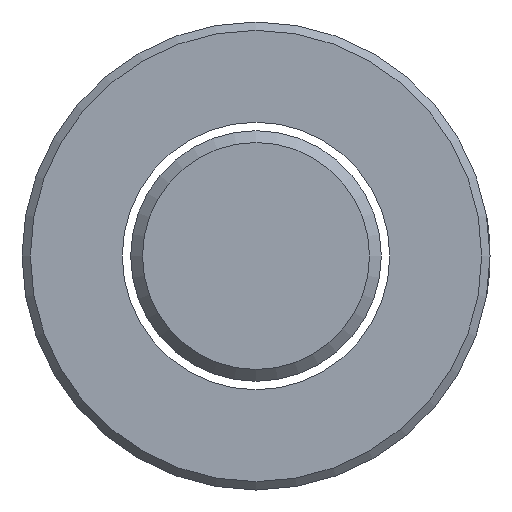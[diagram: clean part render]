
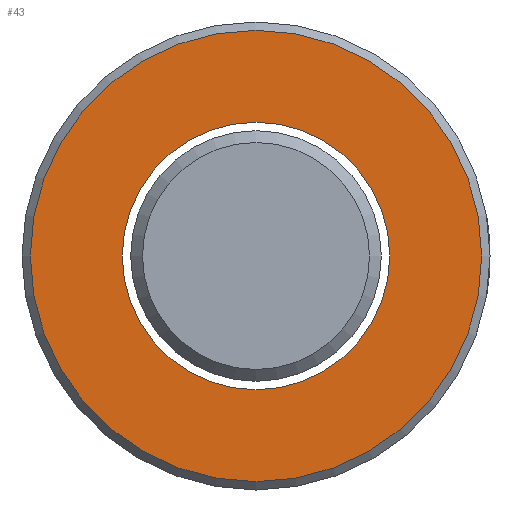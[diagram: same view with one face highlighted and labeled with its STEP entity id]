
A CAD part, front view. The second image highlights one B-rep face of the part: STEP entity #43.
In plain terms, the highlighted planar face has unit normal (0, -1, 0).
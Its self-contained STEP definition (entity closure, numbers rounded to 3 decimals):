
#1 = EDGE_CURVE ( 'NONE', #92, #92, #881, .T. ) ;
#31 = VERTEX_POINT ( 'NONE', #449 ) ;
#43 = ADVANCED_FACE ( 'NONE', ( #904, #184 ), #86, .F. ) ;
#68 = ORIENTED_EDGE ( 'NONE', *, *, #220, .T. ) ;
#86 = PLANE ( 'NONE',  #567 ) ;
#92 = VERTEX_POINT ( 'NONE', #514 ) ;
#139 = EDGE_LOOP ( 'NONE', ( #68 ) ) ;
#184 = FACE_OUTER_BOUND ( 'NONE', #192, .T. ) ;
#192 = EDGE_LOOP ( 'NONE', ( #579 ) ) ;
#220 = EDGE_CURVE ( 'NONE', #31, #31, #929, .T. ) ;
#245 = CARTESIAN_POINT ( 'NONE',  ( 0., -58.5, 0. ) ) ;
#318 = DIRECTION ( 'NONE',  ( 0., -1., 0. ) ) ;
#326 = AXIS2_PLACEMENT_3D ( 'NONE', #825, #391, #897 ) ;
#351 = AXIS2_PLACEMENT_3D ( 'NONE', #245, #318, #397 ) ;
#378 = DIRECTION ( 'NONE',  ( 0., 1., 0. ) ) ;
#391 = DIRECTION ( 'NONE',  ( 0., 1., 0. ) ) ;
#397 = DIRECTION ( 'NONE',  ( 0., 0., 1. ) ) ;
#449 = CARTESIAN_POINT ( 'NONE',  ( 8., -58.5, 0. ) ) ;
#514 = CARTESIAN_POINT ( 'NONE',  ( 0., -58.5, 13.5 ) ) ;
#567 = AXIS2_PLACEMENT_3D ( 'NONE', #596, #378, #674 ) ;
#579 = ORIENTED_EDGE ( 'NONE', *, *, #1, .T. ) ;
#596 = CARTESIAN_POINT ( 'NONE',  ( 0., -58.5, 0. ) ) ;
#674 = DIRECTION ( 'NONE',  ( 1., 0., 0. ) ) ;
#825 = CARTESIAN_POINT ( 'NONE',  ( 0., -58.5, 0. ) ) ;
#881 = CIRCLE ( 'NONE', #351, 13.5 ) ;
#897 = DIRECTION ( 'NONE',  ( 1., 0., 0. ) ) ;
#904 = FACE_BOUND ( 'NONE', #139, .T. ) ;
#929 = CIRCLE ( 'NONE', #326, 8. ) ;
